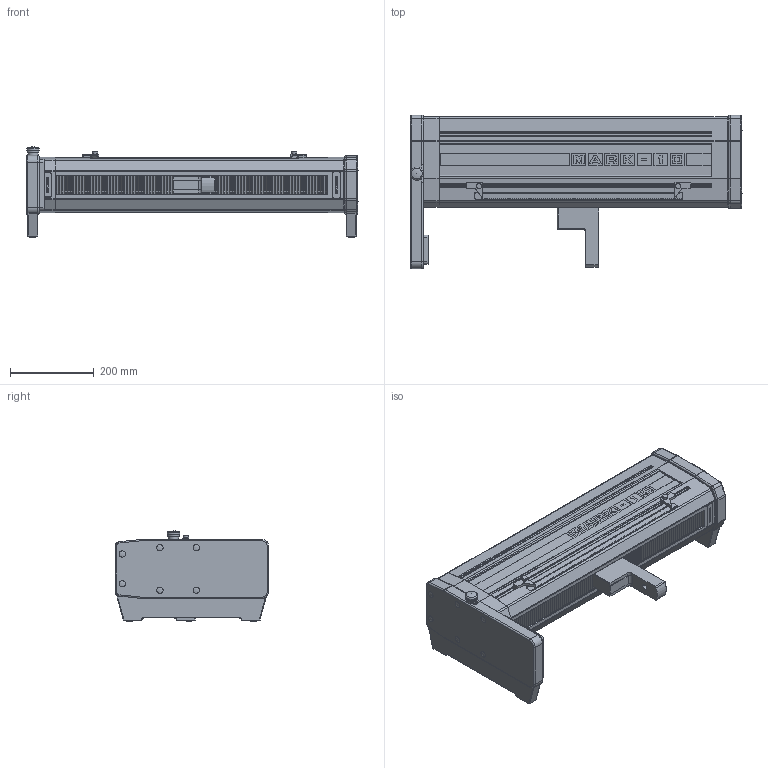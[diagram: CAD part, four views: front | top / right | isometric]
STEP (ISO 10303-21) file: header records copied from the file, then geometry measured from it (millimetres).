
FILE_DESCRIPTION(/* description */ (''),/* implementation_level */ '2;1');
FILE_NAME(/* name */ 'F:\CAD files\Itr\3D MARKETING MODELS\MOTORIZED TEST STANDS\FX05H\F505H-IM\F505H_IM.stp',/* time_stamp */ '2021-02-05T15:45:41-05:00',/* author */ ('dsollitt'),/* organization */ (''),/* preprocessor_version */ 'ST-DEVELOPER v18.1',/* originating_system */ 'AutoCAD Mechanical',/* authorisation */ '');
FILE_SCHEMA (('AUTOMOTIVE_DESIGN { 1 0 10303 214 3 1 1 }'));
Products named in the file (1): Product
Bounding box: 792.13 x 365.76 x 215.19 mm (x, y, z)
Volume: 22005347.3 mm3; surface area: 1172566.6 mm2
Topology: 6 solids, 8 shells, 8916 faces, 24839 edges, 16499 vertices
Faces by surface type: plane 7884, cylinder 798, cone 106, torus 81, bspline 30, sphere 17
Full cylindrical faces by diameter (mm): 1.015 x2, 1.55 x4, 1.797 x2, 2 x4, 2.13 x1, 3.328 x1, 4.191 x4, 4.826 x24, 5.563 x2, 6 x2, 6.858 x2, 7.938 x5, 9.525 x2, 9.8 x1, 10.439 x4, 12.1 x1, 12.7 x2, 12.8 x1, 13.1 x1, 13.106 x1, 14.1 x1, 15.062 x10, 15.3 x1, 17 x1, 17.4 x1, 19.05 x4, 20 x1, 24.6 x1, 25.4 x4, 27.788 x1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
Entity records: 283554 total; most frequent: CARTESIAN_POINT 52705, ORIENTED_EDGE 49668, DIRECTION 44640, EDGE_CURVE 24834, LINE 22542, VECTOR 22542, VERTEX_POINT 16499, AXIS2_PLACEMENT_3D 11049
